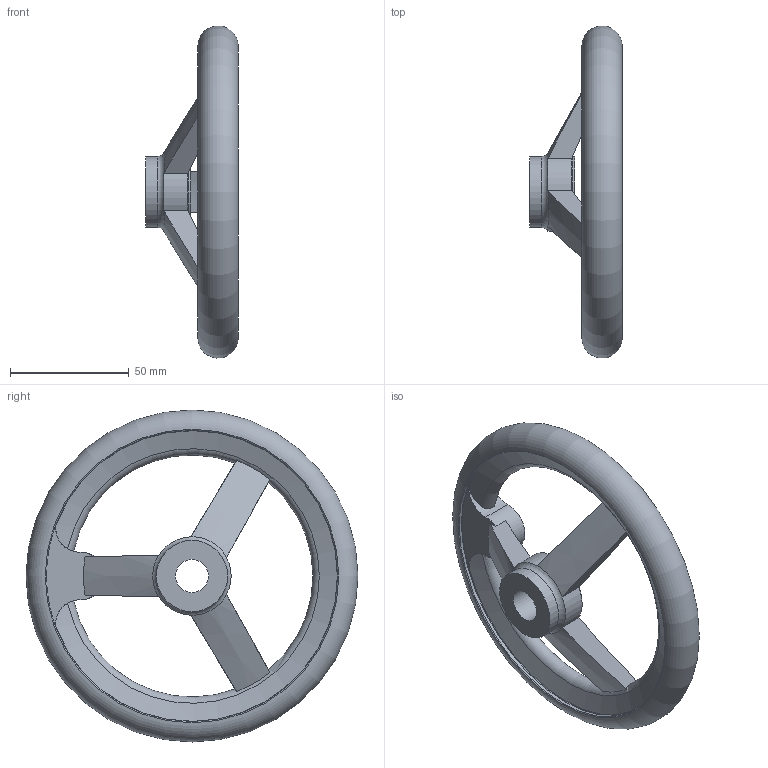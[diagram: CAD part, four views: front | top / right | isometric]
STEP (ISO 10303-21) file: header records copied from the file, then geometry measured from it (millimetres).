
FILE_DESCRIPTION( ( 'STEP AP203' ), '1' );
FILE_NAME( 'C:/Temp/Ganter_Step_05_03_2020/data/1_3/din_950/din_950_b/din_950_b_a/Handwheel DIN 950-AL-140-B14-A.stp', '2020-03-05T10:29:16', ( 'License CC BY-ND 4.0' ), ( 'CADENAS' ), ' ', 'PARTsolutions', ' ' );
FILE_SCHEMA( ( 'CONFIG_CONTROL_DESIGN' ) );
Length unit declared in the file: millimetre
Products named in the file (1): _Handwheel DIN 950-AL-140-B14-A
Bounding box: 39 x 139.96 x 139.96 mm (x, y, z)
Volume: 110702.5 mm3; surface area: 31338.9 mm2
Topology: 1 solids, 1 shells, 37 faces, 108 edges, 69 vertices
Faces by surface type: cylinder 11, plane 10, torus 10, cone 6
Full cylindrical faces by diameter (mm): 14 x1, 30 x2, 123 x2
Entity records: 1528 total; most frequent: CARTESIAN_POINT 602, ORIENTED_EDGE 182, DIRECTION 172, EDGE_CURVE 91, AXIS2_PLACEMENT_3D 80, VERTEX_POINT 66, EDGE_LOOP 54, FACE_OUTER_BOUND 49
